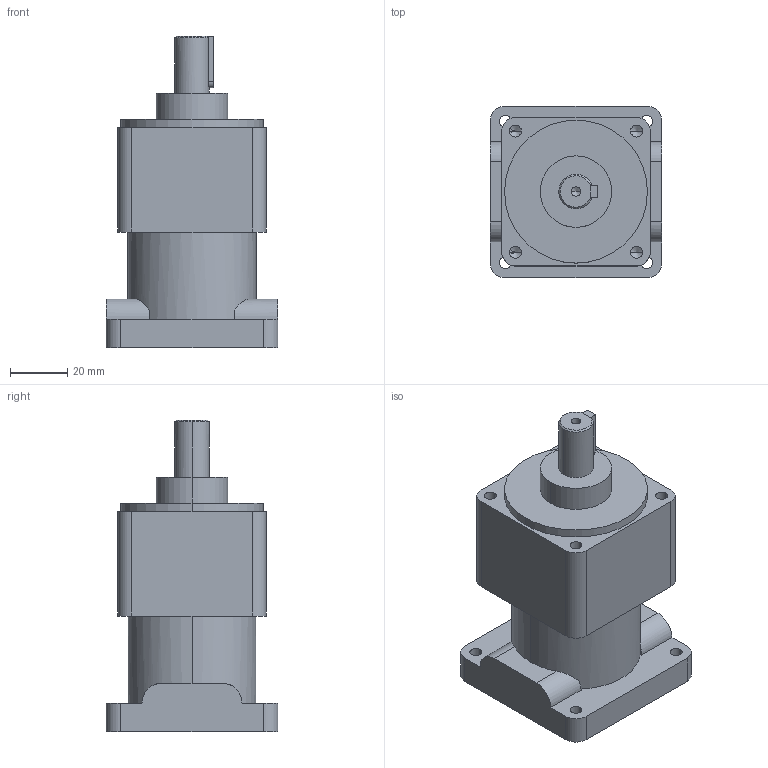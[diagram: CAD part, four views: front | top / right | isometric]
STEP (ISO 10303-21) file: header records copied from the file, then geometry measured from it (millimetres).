
FILE_DESCRIPTION (( 'STEP AP214' ), '1' );
FILE_NAME ('VRSF-60L2.STEP', '2019-09-07T06:11:00', ( '微软用户' ), ( '微软中国' ), 'SwSTEP 2.0', 'SolidWorks 2014', '' );
FILE_SCHEMA (( 'AUTOMOTIVE_DESIGN' ));
Length unit declared in the file: millimetre
Products named in the file (2): VRSF-60L2
Bounding box: 60 x 60 x 109 mm (x, y, z)
Volume: 185815.1 mm3; surface area: 28566.8 mm2
Topology: 2 solids, 2 shells, 713 faces, 2041 edges, 1352 vertices
Faces by surface type: plane 597, bspline 60, cylinder 44, cone 12
Entity records: 30127 total; most frequent: CARTESIAN_POINT 4966, ORIENTED_EDGE 4062, DIRECTION 3306, EDGE_CURVE 2031, LINE 1810, VECTOR 1810, VERTEX_POINT 1352, EDGE_LOOP 751
